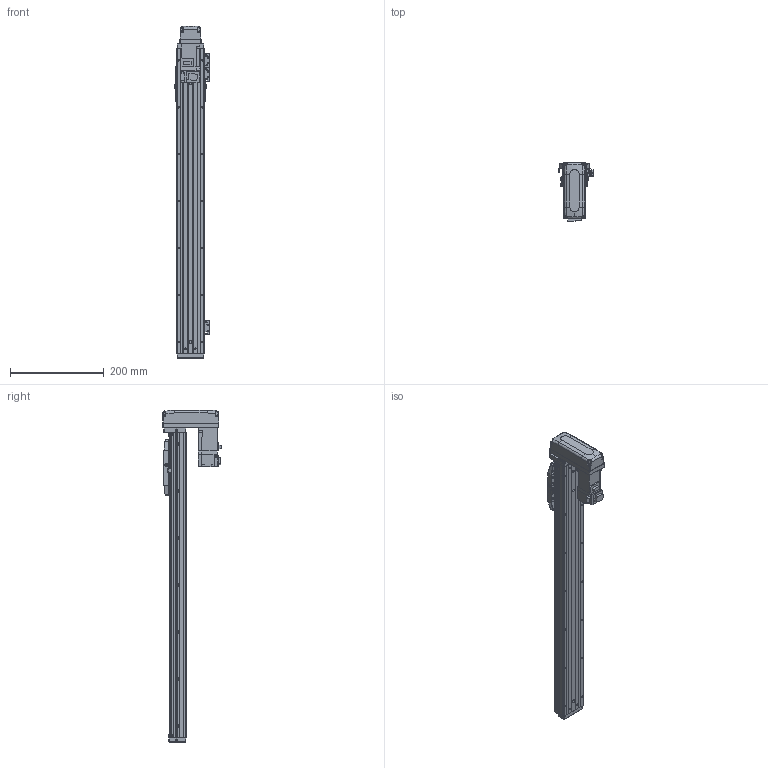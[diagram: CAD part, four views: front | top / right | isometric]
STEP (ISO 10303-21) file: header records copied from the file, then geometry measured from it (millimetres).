
FILE_DESCRIPTION (( 'STEP AP203' ), '1' );
FILE_NAME ('CTHA50-500-BM-M10-C4L.step', '2022-03-19T06:03:57', ( '微软用户' ), ( '微软中国' ), 'SwSTEP 2.0', 'SolidWorks 2020', '' );
FILE_SCHEMA (( 'CONFIG_CONTROL_DESIGN' ));
Length unit declared in the file: millimetre
Products named in the file (20): KTHA50-005; CTHA60-016; CTHA50-015-2_CTHA60-015-2; GB¨uT 70.2-M3¡Á6_M3¡Á6; CTHA60-021; CTHA60-033; EE_SX911P_R; HG-KR13（三菱）; GBT 70.1-M3×15; GBT77-2000 M3×3; CTHA50-002; CTHA50-500-BM-M10-C4L; GBT 70.1-M3℅6; CTHA50-030; KTHA50-001_650; CTHA60-017; CTHA50-031; KTHA50-004; GBT 70.1-M4×12; GBT 70.3-M3℅6
Assembly tree (60 placements, depth 2):
  CTHA50-500-BM-M10-C4L
    KTHA50-001_650
    KTHA50-004
    KTHA50-005
    GB¨uT 70.2-M3¡Á6_M3¡Á6  x10
    EE_SX911P_R  x3
    GBT77-2000 M3×3  x6
    GBT 70.1-M3℅6  x6
    CTHA60-017  x3
    GBT 70.1-M4×12  x10
    CTHA60-016  x2
    CTHA60-021  x2
    HG-KR13（三菱）
    CTHA50-002
    CTHA50-030  x2
    CTHA50-031
    GBT 70.3-M3℅6  x4
    CTHA50-015-2_CTHA60-015-2
    CTHA60-033
    GBT 70.1-M3×15  x4
Bounding box: 74.12 x 125.3 x 707 mm (x, y, z)
Volume: 1382947.4 mm3; surface area: 354213.7 mm2
Topology: 62 solids, 62 shells, 2533 faces, 6023 edges, 3690 vertices
Faces by surface type: plane 1434, cylinder 588, cone 353, torus 108, bspline 26, sphere 24
Entity records: 43331 total; most frequent: CARTESIAN_POINT 7995, DIRECTION 6755, ORIENTED_EDGE 6554, EDGE_CURVE 3277, LINE 2295, VECTOR 2295, AXIS2_PLACEMENT_3D 2230, VERTEX_POINT 2064
